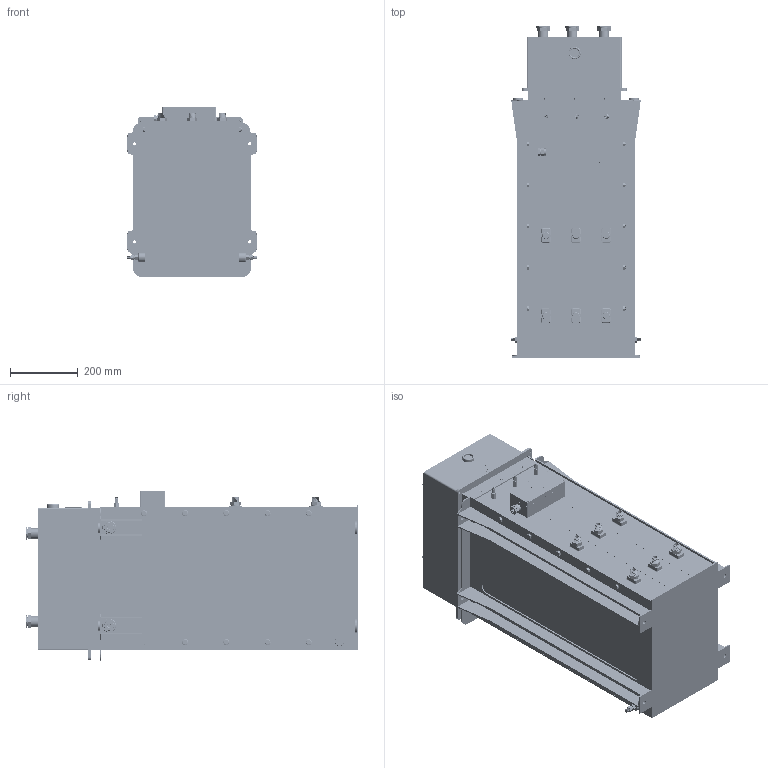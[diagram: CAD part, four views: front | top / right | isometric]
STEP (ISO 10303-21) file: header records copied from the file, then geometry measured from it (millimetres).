
FILE_DESCRIPTION (( 'STEP AP203' ), '1' );
FILE_NAME ('ﾐﾑﾌﾊ-3ﾀ IP65.STEP', '2024-04-08T12:51:57', ( '' ), ( '' ), 'SwSTEP 2.0', 'SolidWorks 2020', '' );
FILE_SCHEMA (( 'CONFIG_CONTROL_DESIGN' ));
Length unit declared in the file: millimetre
Products named in the file (1): ﾐﾑﾌﾊ-3ﾀ IP65
Bounding box: 383 x 977.58 x 500.5 mm (x, y, z)
Volume: 93912248 mm3; surface area: 6326267.3 mm2
Topology: 249 solids, 360 shells, 13814 faces, 34036 edges, 21558 vertices
Faces by surface type: cylinder 6113, plane 5406, torus 846, cone 839, bspline 570, sphere 40
Entity records: 665422 total; most frequent: CARTESIAN_POINT 353933, ORIENTED_EDGE 67540, DIRECTION 62874, EDGE_CURVE 33770, AXIS2_PLACEMENT_3D 23174, VERTEX_POINT 21558, LINE 16526, VECTOR 16526
